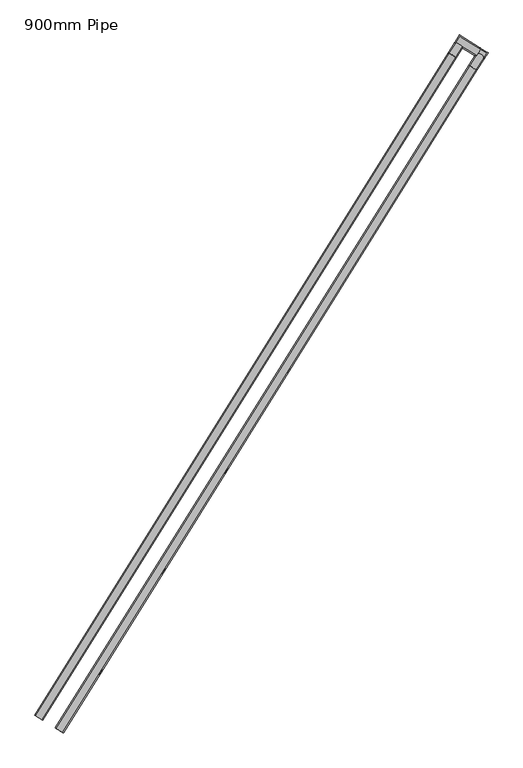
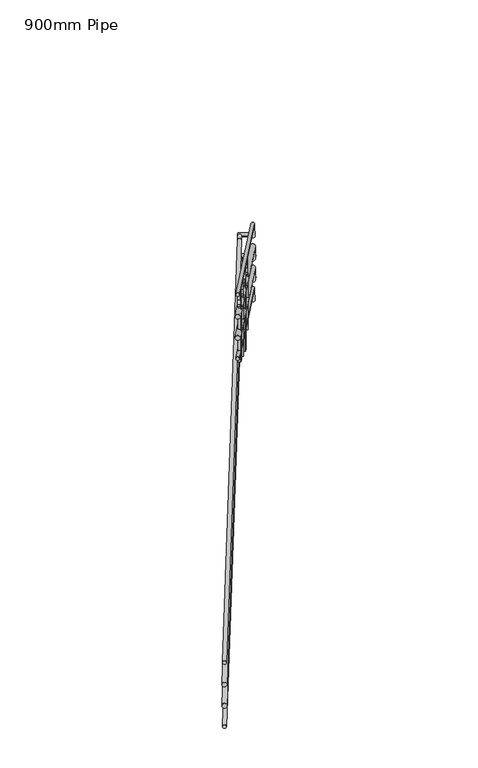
"""IFC4 building model written with IfcOpenShell, lengths in millimetres: railing geometry, 900mm Pipe."""

from ifc_helpers import new_model, si_unit, point, frame, frame_2d, origin, place, context, project, spatial, polyline, circle_curve, ellipse_curve, trimmed, segment, composite_curve, outline, extrude, source, transform, mapped, element, save
from ifc_brep_helpers import plane_surface, cylinder_surface, advanced_brep


def railing_900mm_pipe_284fd88e(model_context):
    return source(origin(), model_context, "Body", "SolidModel", [
        advanced_brep(
        [(45849.2255802, -53294.2540452, -2766.7705098), (45874.6670231, -53310.1516232, -2766.7705098), (47597.9591522, -50495.6953279, -1116.7705098), (47623.400595, -50511.5929058, -1116.7705098)],
        [
            (0, 1, ellipse_curve(frame((45861.9463016, -53302.2028342, -2766.7705098), z_axis=(-0.5299192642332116, -0.8480480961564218, 0.0), x_axis=(0.0, 0.0, -1.0)), 16.7705098, 15.0)),
            (1, 0, ellipse_curve(frame((45861.9463016, -53302.2028342, -2766.7705098), z_axis=(-0.5299192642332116, -0.8480480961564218, 0.0), x_axis=(0.0, 0.0, -1.0)), 16.7705098, 15.0)),
            (2, 3, ellipse_curve(frame((47610.6798736, -50503.6441169, -1116.7705098), z_axis=(0.5299192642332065, 0.848048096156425, 0.0), x_axis=(0.0, 0.0, -1.0)), 16.7705098, 15.0)),
            (3, 2, ellipse_curve(frame((47610.6798736, -50503.6441169, -1116.7705098), z_axis=(0.5299192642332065, 0.848048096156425, 0.0), x_axis=(0.0, 0.0, -1.0)), 16.7705098, 15.0)),
            (0, 2),
            (3, 1),
        ],
        [
            plane_surface(frame((45861.9463016, -53302.2028342, -2750.0), z_axis=(-0.5299192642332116, -0.8480480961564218, 0.0), x_axis=(0.8480480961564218, -0.5299192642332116, 0.0))),
            plane_surface(frame((47610.6798736, -50503.6441169, -1100.0), z_axis=(0.5299192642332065, 0.848048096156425, 0.0), x_axis=(0.848048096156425, -0.5299192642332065, 0.0))),
            cylinder_surface(frame((45865.5011081, -53296.5139546, -2763.4164079), z_axis=(-0.47397419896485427, -0.758517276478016, -0.44721359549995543), x_axis=(0.848048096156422, -0.5299192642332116, 0.0)), 15.0),
        ],
        [
            (0, [[1, 2]]),
            (1, [[3, 4]]),
            (2, [[-1, 5, -4, 6]]),
            (2, [[-2, -6, -3, -5]]),
        ],
    ),
        advanced_brep(
        [(47597.9591522, -50495.6953279, -1115.0), (47623.400595, -50511.5929058, -1115.0), (47625.9354666, -50450.9238659, -1115.0), (47651.3769095, -50466.8214438, -1115.0)],
        [
            (0, 1, circle_curve(frame((47610.6798736, -50503.6441169, -1115.0), z_axis=(-0.5299192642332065, -0.848048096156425, 0.0), x_axis=(0.848048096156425, -0.5299192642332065, 0.0)), 15.0)),
            (1, 0, circle_curve(frame((47610.6798736, -50503.6441169, -1115.0), z_axis=(-0.5299192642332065, -0.848048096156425, 0.0), x_axis=(0.848048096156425, -0.5299192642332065, 0.0)), 15.0)),
            (2, 3, circle_curve(frame((47638.6561881, -50458.8726548, -1115.0), z_axis=(0.5299192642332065, 0.848048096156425, 0.0), x_axis=(0.848048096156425, -0.5299192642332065, 0.0)), 15.0)),
            (3, 2, circle_curve(frame((47638.6561881, -50458.8726548, -1115.0), z_axis=(0.5299192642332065, 0.848048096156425, 0.0), x_axis=(0.848048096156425, -0.5299192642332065, 0.0)), 15.0)),
            (0, 2),
            (3, 1),
        ],
        [
            plane_surface(frame((47610.6798736, -50503.6441169, -1100.0), z_axis=(-0.5299192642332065, -0.848048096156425, 0.0), x_axis=(0.848048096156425, -0.5299192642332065, 0.0))),
            plane_surface(frame((47638.6561881, -50458.8726548, -1100.0), z_axis=(0.529919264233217, 0.8480480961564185, 0.0), x_axis=(0.8480480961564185, -0.529919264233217, 0.0))),
            cylinder_surface(frame((47610.6798736, -50503.6441169, -1115.0), z_axis=(-0.5299192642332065, -0.848048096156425, 0.0), x_axis=(0.848048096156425, -0.5299192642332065, 0.0)), 15.0),
        ],
        [
            (0, [[1, 2]]),
            (1, [[3, 4]]),
            (2, [[-1, 5, -4, 6]]),
            (2, [[-2, -6, -3, -5]]),
        ],
    ),
        advanced_brep(
        [(47641.8330446, -50425.482423, -1115.0), (47625.9354666, -50450.9238659, -1115.0), (47728.6891953, -50479.7561696, -1115.0), (47712.7916173, -50505.1976125, -1115.0)],
        [
            (0, 1, circle_curve(frame((47633.8842556, -50438.2031444, -1115.0), z_axis=(-0.8480480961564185, 0.529919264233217, 0.0), x_axis=(-0.529919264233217, -0.8480480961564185, 0.0)), 15.0)),
            (1, 0, circle_curve(frame((47633.8842556, -50438.2031444, -1115.0), z_axis=(-0.8480480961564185, 0.529919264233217, 0.0), x_axis=(-0.529919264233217, -0.8480480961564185, 0.0)), 15.0)),
            (2, 3, circle_curve(frame((47720.7404063, -50492.476891, -1115.0), z_axis=(0.8480480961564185, -0.529919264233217, 0.0), x_axis=(-0.529919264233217, -0.8480480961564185, 0.0)), 15.0)),
            (3, 2, circle_curve(frame((47720.7404063, -50492.476891, -1115.0), z_axis=(0.8480480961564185, -0.529919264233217, 0.0), x_axis=(-0.529919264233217, -0.8480480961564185, 0.0)), 15.0)),
            (0, 2),
            (3, 1),
        ],
        [
            plane_surface(frame((47633.8842556, -50438.2031444, -1100.0), z_axis=(-0.848048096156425, 0.5299192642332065, 0.0), x_axis=(0.5299192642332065, 0.848048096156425, 0.0))),
            plane_surface(frame((47720.7404063, -50492.476891, -1100.0), z_axis=(0.8480480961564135, -0.5299192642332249, 0.0), x_axis=(0.5299192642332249, 0.8480480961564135, 0.0))),
            cylinder_surface(frame((47633.8842556, -50438.2031444, -1115.0), z_axis=(-0.8480480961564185, 0.529919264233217, 0.0), x_axis=(-0.529919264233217, -0.8480480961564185, 0.0)), 15.0),
        ],
        [
            (0, [[1, 2]]),
            (1, [[3, 4]]),
            (2, [[-1, 5, -4, 6]]),
            (2, [[-2, -6, -3, -5]]),
        ],
    ),
        advanced_brep(
        [(47754.1306382, -50495.6537475, -1115.0), (47728.6891953, -50479.7561696, -1115.0), (47741.0514371, -50516.5848446, -1115.0), (47715.6099942, -50500.6872667, -1115.0), (47710.2567458, -50565.8666524, -986.4212833), (47684.8153029, -50549.9690745, -986.4212833)],
        [
            (0, 1, circle_curve(frame((47741.4099167, -50487.7049585, -1115.0), z_axis=(0.5299192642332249, 0.8480480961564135, 0.0), x_axis=(-0.8480480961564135, 0.5299192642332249, 0.0)), 15.0)),
            (1, 0, circle_curve(frame((47741.4099167, -50487.7049585, -1115.0), z_axis=(0.5299192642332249, 0.8480480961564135, 0.0), x_axis=(-0.8480480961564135, 0.5299192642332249, 0.0)), 15.0)),
            (0, 2),
            (2, 3, ellipse_curve(frame((47728.3307156, -50508.6360557, -1115.0), z_axis=(0.44523422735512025, 0.7125237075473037, -0.5422881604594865), x_axis=(0.28736894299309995, 0.45988644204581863, 0.8401925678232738)), 17.8530501, 15.0)),
            (3, 1),
            (3, 2, ellipse_curve(frame((47728.3307156, -50508.6360557, -1115.0), z_axis=(0.44523422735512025, 0.7125237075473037, -0.5422881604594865), x_axis=(0.28736894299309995, 0.45988644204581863, 0.8401925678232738)), 17.8530501, 15.0)),
            (4, 5, ellipse_curve(frame((47697.5360243, -50557.9178635, -986.4212833), z_axis=(-0.5299192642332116, -0.8480480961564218, 0.0), x_axis=(0.0, 0.0, -1.0)), 36.4212833, 15.0)),
            (5, 4, ellipse_curve(frame((47697.5360243, -50557.9178635, -986.4212833), z_axis=(-0.5299192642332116, -0.8480480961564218, 0.0), x_axis=(0.0, 0.0, -1.0)), 36.4212833, 15.0)),
            (2, 4),
            (5, 3),
        ],
        [
            plane_surface(frame((47741.4099167, -50487.7049585, -1100.0), z_axis=(0.529919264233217, 0.8480480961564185, 0.0), x_axis=(0.8480480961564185, -0.529919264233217, 0.0))),
            cylinder_surface(frame((47741.4099167, -50487.7049585, -1115.0), z_axis=(0.5299192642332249, 0.8480480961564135, 0.0), x_axis=(-0.8480480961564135, 0.5299192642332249, 0.0)), 15.0),
            plane_surface(frame((47697.5360243, -50557.9178635, -950.0), z_axis=(-0.5299192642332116, -0.8480480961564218, 0.0), x_axis=(0.8480480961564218, -0.5299192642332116, 0.0))),
            cylinder_surface(frame((47726.2177702, -50512.0174751, -1106.1777065), z_axis=(0.21824571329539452, 0.34926615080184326, -0.9112529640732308), x_axis=(-0.848048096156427, 0.5299192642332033, 0.0)), 15.0),
        ],
        [
            (0, [[1, 2]]),
            (1, [[-1, 3, 4, 5]]),
            (1, [[-2, -5, 6, -3]]),
            (2, [[7, 8]]),
            (3, [[-4, 9, -8, 10]]),
            (3, [[-6, -10, -7, -9]]),
        ],
    ),
        advanced_brep(
        [(47710.2567458, -50565.8666524, -966.7705098), (47684.8153029, -50549.9690745, -966.7705098), (45961.5231738, -53364.4253698, 683.2294902), (45936.0817309, -53348.5277918, 683.2294902)],
        [
            (0, 1, ellipse_curve(frame((47697.5360243, -50557.9178635, -966.7705098), z_axis=(0.5299192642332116, 0.8480480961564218, 0.0), x_axis=(0.0, 0.0, -1.0)), 16.7705098, 15.0)),
            (1, 0, ellipse_curve(frame((47697.5360243, -50557.9178635, -966.7705098), z_axis=(0.5299192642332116, 0.8480480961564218, 0.0), x_axis=(0.0, 0.0, -1.0)), 16.7705098, 15.0)),
            (2, 3, ellipse_curve(frame((45948.8024523, -53356.4765808, 683.2294902), z_axis=(-0.5299192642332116, -0.8480480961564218, 0.0), x_axis=(0.0, 0.0, -1.0)), 16.7705098, 15.0)),
            (3, 2, ellipse_curve(frame((45948.8024523, -53356.4765808, 683.2294902), z_axis=(-0.5299192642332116, -0.8480480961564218, 0.0), x_axis=(0.0, 0.0, -1.0)), 16.7705098, 15.0)),
            (0, 2),
            (3, 1),
        ],
        [
            plane_surface(frame((47697.5360243, -50557.9178635, -950.0), z_axis=(0.5299192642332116, 0.8480480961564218, 0.0), x_axis=(0.8480480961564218, -0.5299192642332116, 0.0))),
            plane_surface(frame((45948.8024523, -53356.4765808, 700.0), z_axis=(-0.5299192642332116, -0.8480480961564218, 0.0), x_axis=(0.8480480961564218, -0.5299192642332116, 0.0))),
            cylinder_surface(frame((47693.9812178, -50563.6067431, -963.4164079), z_axis=(0.47397419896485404, 0.7585172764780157, -0.44721359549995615), x_axis=(-0.8480480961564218, 0.5299192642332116, 0.0)), 15.0),
        ],
        [
            (0, [[1, 2]]),
            (1, [[3, 4]]),
            (2, [[-1, 5, -4, 6]]),
            (2, [[-2, -6, -3, -5]]),
        ],
    ),
        advanced_brep(
        [(45844.9853397, -53291.6044489, -2972.3606798), (45878.9072636, -53312.8012195, -2972.3606798), (47593.7189117, -50493.0457316, -1322.3606798), (47627.6408355, -50514.2425022, -1322.3606798)],
        [
            (0, 1, ellipse_curve(frame((45861.9463016, -53302.2028342, -2972.3606798), z_axis=(-0.5299192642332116, -0.8480480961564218, 0.0), x_axis=(0.0, 0.0, -1.0)), 22.3606798, 20.0)),
            (1, 0, ellipse_curve(frame((45861.9463016, -53302.2028342, -2972.3606798), z_axis=(-0.5299192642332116, -0.8480480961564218, 0.0), x_axis=(0.0, 0.0, -1.0)), 22.3606798, 20.0)),
            (2, 3, ellipse_curve(frame((47610.6798736, -50503.6441169, -1322.3606798), z_axis=(0.5299192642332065, 0.848048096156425, 0.0), x_axis=(0.0, 0.0, -1.0)), 22.3606798, 20.0)),
            (3, 2, ellipse_curve(frame((47610.6798736, -50503.6441169, -1322.3606798), z_axis=(0.5299192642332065, 0.848048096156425, 0.0), x_axis=(0.0, 0.0, -1.0)), 22.3606798, 20.0)),
            (0, 2),
            (3, 1),
        ],
        [
            plane_surface(frame((45861.9463016, -53302.2028342, -2950.0), z_axis=(-0.5299192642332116, -0.8480480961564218, 0.0), x_axis=(0.8480480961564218, -0.5299192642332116, 0.0))),
            plane_surface(frame((47610.6798736, -50503.6441169, -1300.0), z_axis=(0.5299192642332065, 0.848048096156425, 0.0), x_axis=(0.848048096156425, -0.5299192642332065, 0.0))),
            cylinder_surface(frame((45866.6860436, -53294.6176614, -2967.8885438), z_axis=(-0.47397419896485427, -0.758517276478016, -0.44721359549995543), x_axis=(0.848048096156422, -0.5299192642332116, 0.0)), 20.0),
        ],
        [
            (0, [[1, 2]]),
            (1, [[3, 4]]),
            (2, [[-1, 5, -4, 6]]),
            (2, [[-2, -6, -3, -5]]),
        ],
    ),
        advanced_brep(
        [(47593.7189117, -50493.0457316, -1320.0), (47627.6408355, -50514.2425022, -1320.0), (47619.0456298, -50452.51451, -1320.0), (47652.9675537, -50473.7112806, -1320.0)],
        [
            (0, 1, circle_curve(frame((47610.6798736, -50503.6441169, -1320.0), z_axis=(-0.5299192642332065, -0.848048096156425, 0.0), x_axis=(0.848048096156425, -0.5299192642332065, 0.0)), 20.0)),
            (1, 0, circle_curve(frame((47610.6798736, -50503.6441169, -1320.0), z_axis=(-0.5299192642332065, -0.848048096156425, 0.0), x_axis=(0.848048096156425, -0.5299192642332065, 0.0)), 20.0)),
            (2, 3, circle_curve(frame((47636.0065918, -50463.1128953, -1320.0), z_axis=(0.5299192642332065, 0.848048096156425, 0.0), x_axis=(0.848048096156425, -0.5299192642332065, 0.0)), 20.0)),
            (3, 2, circle_curve(frame((47636.0065918, -50463.1128953, -1320.0), z_axis=(0.5299192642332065, 0.848048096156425, 0.0), x_axis=(0.848048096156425, -0.5299192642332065, 0.0)), 20.0)),
            (0, 2),
            (3, 1),
        ],
        [
            plane_surface(frame((47610.6798736, -50503.6441169, -1300.0), z_axis=(-0.5299192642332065, -0.848048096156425, 0.0), x_axis=(0.848048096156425, -0.5299192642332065, 0.0))),
            plane_surface(frame((47636.0065918, -50463.1128953, -1300.0), z_axis=(0.529919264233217, 0.8480480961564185, 0.0), x_axis=(0.8480480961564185, -0.529919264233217, 0.0))),
            cylinder_surface(frame((47610.6798736, -50503.6441169, -1320.0), z_axis=(-0.5299192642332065, -0.848048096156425, 0.0), x_axis=(0.848048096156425, -0.5299192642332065, 0.0)), 20.0),
        ],
        [
            (0, [[1, 2]]),
            (1, [[3, 4]]),
            (2, [[-1, 5, -4, 6]]),
            (2, [[-2, -6, -3, -5]]),
        ],
    ),
        advanced_brep(
        [(47640.2424004, -50418.5925862, -1320.0), (47619.0456298, -50452.51451, -1320.0), (47727.0985511, -50472.8663328, -1320.0), (47705.9017805, -50506.7882566, -1320.0)],
        [
            (0, 1, circle_curve(frame((47629.6440151, -50435.5535481, -1320.0), z_axis=(-0.8480480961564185, 0.529919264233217, 0.0), x_axis=(-0.529919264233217, -0.8480480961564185, 0.0)), 20.0)),
            (1, 0, circle_curve(frame((47629.6440151, -50435.5535481, -1320.0), z_axis=(-0.8480480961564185, 0.529919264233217, 0.0), x_axis=(-0.529919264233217, -0.8480480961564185, 0.0)), 20.0)),
            (2, 3, circle_curve(frame((47716.5001658, -50489.8272947, -1320.0), z_axis=(0.8480480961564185, -0.529919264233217, 0.0), x_axis=(-0.529919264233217, -0.8480480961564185, 0.0)), 20.0)),
            (3, 2, circle_curve(frame((47716.5001658, -50489.8272947, -1320.0), z_axis=(0.8480480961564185, -0.529919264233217, 0.0), x_axis=(-0.529919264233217, -0.8480480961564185, 0.0)), 20.0)),
            (0, 2),
            (3, 1),
        ],
        [
            plane_surface(frame((47629.6440151, -50435.5535481, -1300.0), z_axis=(-0.848048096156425, 0.5299192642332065, 0.0), x_axis=(0.5299192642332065, 0.848048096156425, 0.0))),
            plane_surface(frame((47716.5001658, -50489.8272947, -1300.0), z_axis=(0.8480480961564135, -0.5299192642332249, 0.0), x_axis=(0.5299192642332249, 0.8480480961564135, 0.0))),
            cylinder_surface(frame((47629.6440151, -50435.5535481, -1320.0), z_axis=(-0.8480480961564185, 0.529919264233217, 0.0), x_axis=(-0.529919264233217, -0.8480480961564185, 0.0)), 20.0),
        ],
        [
            (0, [[1, 2]]),
            (1, [[3, 4]]),
            (2, [[-1, 5, -4, 6]]),
            (2, [[-2, -6, -3, -5]]),
        ],
    ),
        advanced_brep(
        [(47761.020475, -50494.0631033, -1320.0), (47727.0985511, -50472.8663328, -1320.0), (47743.5815402, -50521.9712329, -1320.0), (47709.6596163, -50500.7744623, -1320.0), (47714.4969862, -50568.5162488, -1198.5617111), (47680.5750624, -50547.3194782, -1198.5617111)],
        [
            (0, 1, circle_curve(frame((47744.059513, -50483.4647181, -1320.0), z_axis=(0.5299192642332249, 0.8480480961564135, 0.0), x_axis=(-0.8480480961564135, 0.5299192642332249, 0.0)), 20.0)),
            (1, 0, circle_curve(frame((47744.059513, -50483.4647181, -1320.0), z_axis=(0.5299192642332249, 0.8480480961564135, 0.0), x_axis=(-0.8480480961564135, 0.5299192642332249, 0.0)), 20.0)),
            (0, 2),
            (2, 3, ellipse_curve(frame((47726.6205782, -50511.3728476, -1320.0), z_axis=(0.44523422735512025, 0.7125237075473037, -0.5422881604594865), x_axis=(0.28736894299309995, 0.45988644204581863, 0.8401925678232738)), 23.8040668, 20.0)),
            (3, 1),
            (3, 2, ellipse_curve(frame((47726.6205782, -50511.3728476, -1320.0), z_axis=(0.44523422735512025, 0.7125237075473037, -0.5422881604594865), x_axis=(0.28736894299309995, 0.45988644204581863, 0.8401925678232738)), 23.8040668, 20.0)),
            (4, 5, ellipse_curve(frame((47697.5360243, -50557.9178635, -1198.5617111), z_axis=(-0.5299192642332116, -0.8480480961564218, 0.0), x_axis=(0.0, 0.0, -1.0)), 48.5617111, 20.0)),
            (5, 4, ellipse_curve(frame((47697.5360243, -50557.9178635, -1198.5617111), z_axis=(-0.5299192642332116, -0.8480480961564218, 0.0), x_axis=(0.0, 0.0, -1.0)), 48.5617111, 20.0)),
            (2, 4),
            (5, 3),
        ],
        [
            plane_surface(frame((47744.059513, -50483.4647181, -1300.0), z_axis=(0.529919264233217, 0.8480480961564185, 0.0), x_axis=(0.8480480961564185, -0.529919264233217, 0.0))),
            cylinder_surface(frame((47744.059513, -50483.4647181, -1320.0), z_axis=(0.5299192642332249, 0.8480480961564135, 0.0), x_axis=(-0.8480480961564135, 0.5299192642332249, 0.0)), 20.0),
            plane_surface(frame((47697.5360243, -50557.9178635, -1150.0), z_axis=(-0.5299192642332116, -0.8480480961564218, 0.0), x_axis=(0.8480480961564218, -0.5299192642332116, 0.0))),
            cylinder_surface(frame((47723.8033177, -50515.8814068, -1308.236942), z_axis=(0.21824571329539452, 0.34926615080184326, -0.9112529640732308), x_axis=(-0.848048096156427, 0.5299192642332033, 0.0)), 20.0),
        ],
        [
            (0, [[1, 2]]),
            (1, [[-1, 3, 4, 5]]),
            (1, [[-2, -5, 6, -3]]),
            (2, [[7, 8]]),
            (3, [[-4, 9, -8, 10]]),
            (3, [[-6, -10, -7, -9]]),
        ],
    ),
        advanced_brep(
        [(47714.4969862, -50568.5162488, -1172.3606798), (47680.5750624, -50547.3194782, -1172.3606798), (45965.7634143, -53367.0749661, 477.6393202), (45931.8414904, -53345.8781955, 477.6393202)],
        [
            (0, 1, ellipse_curve(frame((47697.5360243, -50557.9178635, -1172.3606798), z_axis=(0.5299192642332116, 0.8480480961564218, 0.0), x_axis=(0.0, 0.0, -1.0)), 22.3606798, 20.0)),
            (1, 0, ellipse_curve(frame((47697.5360243, -50557.9178635, -1172.3606798), z_axis=(0.5299192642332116, 0.8480480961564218, 0.0), x_axis=(0.0, 0.0, -1.0)), 22.3606798, 20.0)),
            (2, 3, ellipse_curve(frame((45948.8024523, -53356.4765808, 477.6393202), z_axis=(-0.5299192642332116, -0.8480480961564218, 0.0), x_axis=(0.0, 0.0, -1.0)), 22.3606798, 20.0)),
            (3, 2, ellipse_curve(frame((45948.8024523, -53356.4765808, 477.6393202), z_axis=(-0.5299192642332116, -0.8480480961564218, 0.0), x_axis=(0.0, 0.0, -1.0)), 22.3606798, 20.0)),
            (0, 2),
            (3, 1),
        ],
        [
            plane_surface(frame((47697.5360243, -50557.9178635, -1150.0), z_axis=(0.5299192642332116, 0.8480480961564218, 0.0), x_axis=(0.8480480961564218, -0.5299192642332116, 0.0))),
            plane_surface(frame((45948.8024523, -53356.4765808, 500.0), z_axis=(-0.5299192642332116, -0.8480480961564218, 0.0), x_axis=(0.8480480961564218, -0.5299192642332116, 0.0))),
            cylinder_surface(frame((47692.7962823, -50565.5030362, -1167.8885438), z_axis=(0.47397419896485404, 0.7585172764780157, -0.44721359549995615), x_axis=(-0.8480480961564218, 0.5299192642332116, 0.0)), 20.0),
        ],
        [
            (0, [[1, 2]]),
            (1, [[3, 4]]),
            (2, [[-1, 5, -4, 6]]),
            (2, [[-2, -6, -3, -5]]),
        ],
    ),
        advanced_brep(
        [(45844.9853397, -53291.6044489, -3172.3606798), (45878.9072636, -53312.8012195, -3172.3606798), (47593.7189117, -50493.0457316, -1522.3606798), (47627.6408355, -50514.2425022, -1522.3606798)],
        [
            (0, 1, ellipse_curve(frame((45861.9463016, -53302.2028342, -3172.3606798), z_axis=(-0.5299192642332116, -0.8480480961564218, 0.0), x_axis=(0.0, 0.0, -1.0)), 22.3606798, 20.0)),
            (1, 0, ellipse_curve(frame((45861.9463016, -53302.2028342, -3172.3606798), z_axis=(-0.5299192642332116, -0.8480480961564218, 0.0), x_axis=(0.0, 0.0, -1.0)), 22.3606798, 20.0)),
            (2, 3, ellipse_curve(frame((47610.6798736, -50503.6441169, -1522.3606798), z_axis=(0.5299192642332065, 0.848048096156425, 0.0), x_axis=(0.0, 0.0, -1.0)), 22.3606798, 20.0)),
            (3, 2, ellipse_curve(frame((47610.6798736, -50503.6441169, -1522.3606798), z_axis=(0.5299192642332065, 0.848048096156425, 0.0), x_axis=(0.0, 0.0, -1.0)), 22.3606798, 20.0)),
            (0, 2),
            (3, 1),
        ],
        [
            plane_surface(frame((45861.9463016, -53302.2028342, -3150.0), z_axis=(-0.5299192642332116, -0.8480480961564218, 0.0), x_axis=(0.8480480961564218, -0.5299192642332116, 0.0))),
            plane_surface(frame((47610.6798736, -50503.6441169, -1500.0), z_axis=(0.5299192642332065, 0.848048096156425, 0.0), x_axis=(0.848048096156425, -0.5299192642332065, 0.0))),
            cylinder_surface(frame((45866.6860436, -53294.6176614, -3167.8885438), z_axis=(-0.47397419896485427, -0.758517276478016, -0.44721359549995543), x_axis=(0.848048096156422, -0.5299192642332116, 0.0)), 20.0),
        ],
        [
            (0, [[1, 2]]),
            (1, [[3, 4]]),
            (2, [[-1, 5, -4, 6]]),
            (2, [[-2, -6, -3, -5]]),
        ],
    ),
        advanced_brep(
        [(47593.7189117, -50493.0457316, -1520.0), (47627.6408355, -50514.2425022, -1520.0), (47619.0456298, -50452.51451, -1520.0), (47652.9675537, -50473.7112806, -1520.0)],
        [
            (0, 1, circle_curve(frame((47610.6798736, -50503.6441169, -1520.0), z_axis=(-0.5299192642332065, -0.848048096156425, 0.0), x_axis=(0.848048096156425, -0.5299192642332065, 0.0)), 20.0)),
            (1, 0, circle_curve(frame((47610.6798736, -50503.6441169, -1520.0), z_axis=(-0.5299192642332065, -0.848048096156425, 0.0), x_axis=(0.848048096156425, -0.5299192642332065, 0.0)), 20.0)),
            (2, 3, circle_curve(frame((47636.0065918, -50463.1128953, -1520.0), z_axis=(0.5299192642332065, 0.848048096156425, 0.0), x_axis=(0.848048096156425, -0.5299192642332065, 0.0)), 20.0)),
            (3, 2, circle_curve(frame((47636.0065918, -50463.1128953, -1520.0), z_axis=(0.5299192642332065, 0.848048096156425, 0.0), x_axis=(0.848048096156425, -0.5299192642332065, 0.0)), 20.0)),
            (0, 2),
            (3, 1),
        ],
        [
            plane_surface(frame((47610.6798736, -50503.6441169, -1500.0), z_axis=(-0.5299192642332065, -0.848048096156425, 0.0), x_axis=(0.848048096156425, -0.5299192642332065, 0.0))),
            plane_surface(frame((47636.0065918, -50463.1128953, -1500.0), z_axis=(0.529919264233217, 0.8480480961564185, 0.0), x_axis=(0.8480480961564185, -0.529919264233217, 0.0))),
            cylinder_surface(frame((47610.6798736, -50503.6441169, -1520.0), z_axis=(-0.5299192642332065, -0.848048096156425, 0.0), x_axis=(0.848048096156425, -0.5299192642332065, 0.0)), 20.0),
        ],
        [
            (0, [[1, 2]]),
            (1, [[3, 4]]),
            (2, [[-1, 5, -4, 6]]),
            (2, [[-2, -6, -3, -5]]),
        ],
    ),
        advanced_brep(
        [(47640.2424004, -50418.5925862, -1520.0), (47619.0456298, -50452.51451, -1520.0), (47727.0985511, -50472.8663328, -1520.0), (47705.9017805, -50506.7882566, -1520.0)],
        [
            (0, 1, circle_curve(frame((47629.6440151, -50435.5535481, -1520.0), z_axis=(-0.8480480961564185, 0.529919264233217, 0.0), x_axis=(-0.529919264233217, -0.8480480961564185, 0.0)), 20.0)),
            (1, 0, circle_curve(frame((47629.6440151, -50435.5535481, -1520.0), z_axis=(-0.8480480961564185, 0.529919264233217, 0.0), x_axis=(-0.529919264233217, -0.8480480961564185, 0.0)), 20.0)),
            (2, 3, circle_curve(frame((47716.5001658, -50489.8272947, -1520.0), z_axis=(0.8480480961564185, -0.529919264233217, 0.0), x_axis=(-0.529919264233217, -0.8480480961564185, 0.0)), 20.0)),
            (3, 2, circle_curve(frame((47716.5001658, -50489.8272947, -1520.0), z_axis=(0.8480480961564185, -0.529919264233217, 0.0), x_axis=(-0.529919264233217, -0.8480480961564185, 0.0)), 20.0)),
            (0, 2),
            (3, 1),
        ],
        [
            plane_surface(frame((47629.6440151, -50435.5535481, -1500.0), z_axis=(-0.848048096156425, 0.5299192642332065, 0.0), x_axis=(0.5299192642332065, 0.848048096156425, 0.0))),
            plane_surface(frame((47716.5001658, -50489.8272947, -1500.0), z_axis=(0.8480480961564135, -0.5299192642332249, 0.0), x_axis=(0.5299192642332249, 0.8480480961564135, 0.0))),
            cylinder_surface(frame((47629.6440151, -50435.5535481, -1520.0), z_axis=(-0.8480480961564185, 0.529919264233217, 0.0), x_axis=(-0.529919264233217, -0.8480480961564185, 0.0)), 20.0),
        ],
        [
            (0, [[1, 2]]),
            (1, [[3, 4]]),
            (2, [[-1, 5, -4, 6]]),
            (2, [[-2, -6, -3, -5]]),
        ],
    ),
        advanced_brep(
        [(47761.020475, -50494.0631033, -1520.0), (47727.0985511, -50472.8663328, -1520.0), (47743.5815402, -50521.9712329, -1520.0), (47709.6596163, -50500.7744623, -1520.0), (47714.4969862, -50568.5162488, -1398.5617111), (47680.5750624, -50547.3194782, -1398.5617111)],
        [
            (0, 1, circle_curve(frame((47744.059513, -50483.4647181, -1520.0), z_axis=(0.5299192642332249, 0.8480480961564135, 0.0), x_axis=(-0.8480480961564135, 0.5299192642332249, 0.0)), 20.0)),
            (1, 0, circle_curve(frame((47744.059513, -50483.4647181, -1520.0), z_axis=(0.5299192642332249, 0.8480480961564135, 0.0), x_axis=(-0.8480480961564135, 0.5299192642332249, 0.0)), 20.0)),
            (0, 2),
            (2, 3, ellipse_curve(frame((47726.6205782, -50511.3728476, -1520.0), z_axis=(0.44523422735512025, 0.7125237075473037, -0.5422881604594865), x_axis=(0.28736894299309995, 0.45988644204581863, 0.8401925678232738)), 23.8040668, 20.0)),
            (3, 1),
            (3, 2, ellipse_curve(frame((47726.6205782, -50511.3728476, -1520.0), z_axis=(0.44523422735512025, 0.7125237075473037, -0.5422881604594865), x_axis=(0.28736894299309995, 0.45988644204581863, 0.8401925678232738)), 23.8040668, 20.0)),
            (4, 5, ellipse_curve(frame((47697.5360243, -50557.9178635, -1398.5617111), z_axis=(-0.5299192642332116, -0.8480480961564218, 0.0), x_axis=(0.0, 0.0, -1.0)), 48.5617111, 20.0)),
            (5, 4, ellipse_curve(frame((47697.5360243, -50557.9178635, -1398.5617111), z_axis=(-0.5299192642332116, -0.8480480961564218, 0.0), x_axis=(0.0, 0.0, -1.0)), 48.5617111, 20.0)),
            (2, 4),
            (5, 3),
        ],
        [
            plane_surface(frame((47744.059513, -50483.4647181, -1500.0), z_axis=(0.529919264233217, 0.8480480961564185, 0.0), x_axis=(0.8480480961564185, -0.529919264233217, 0.0))),
            cylinder_surface(frame((47744.059513, -50483.4647181, -1520.0), z_axis=(0.5299192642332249, 0.8480480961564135, 0.0), x_axis=(-0.8480480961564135, 0.5299192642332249, 0.0)), 20.0),
            plane_surface(frame((47697.5360243, -50557.9178635, -1350.0), z_axis=(-0.5299192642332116, -0.8480480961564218, 0.0), x_axis=(0.8480480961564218, -0.5299192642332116, 0.0))),
            cylinder_surface(frame((47723.8033177, -50515.8814068, -1508.236942), z_axis=(0.21824571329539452, 0.34926615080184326, -0.9112529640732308), x_axis=(-0.848048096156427, 0.5299192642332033, 0.0)), 20.0),
        ],
        [
            (0, [[1, 2]]),
            (1, [[-1, 3, 4, 5]]),
            (1, [[-2, -5, 6, -3]]),
            (2, [[7, 8]]),
            (3, [[-4, 9, -8, 10]]),
            (3, [[-6, -10, -7, -9]]),
        ],
    ),
        advanced_brep(
        [(47714.4969862, -50568.5162488, -1372.3606798), (47680.5750624, -50547.3194782, -1372.3606798), (45965.7634143, -53367.0749661, 277.6393202), (45931.8414904, -53345.8781955, 277.6393202)],
        [
            (0, 1, ellipse_curve(frame((47697.5360243, -50557.9178635, -1372.3606798), z_axis=(0.5299192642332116, 0.8480480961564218, 0.0), x_axis=(0.0, 0.0, -1.0)), 22.3606798, 20.0)),
            (1, 0, ellipse_curve(frame((47697.5360243, -50557.9178635, -1372.3606798), z_axis=(0.5299192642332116, 0.8480480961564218, 0.0), x_axis=(0.0, 0.0, -1.0)), 22.3606798, 20.0)),
            (2, 3, ellipse_curve(frame((45948.8024523, -53356.4765808, 277.6393202), z_axis=(-0.5299192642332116, -0.8480480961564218, 0.0), x_axis=(0.0, 0.0, -1.0)), 22.3606798, 20.0)),
            (3, 2, ellipse_curve(frame((45948.8024523, -53356.4765808, 277.6393202), z_axis=(-0.5299192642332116, -0.8480480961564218, 0.0), x_axis=(0.0, 0.0, -1.0)), 22.3606798, 20.0)),
            (0, 2),
            (3, 1),
        ],
        [
            plane_surface(frame((47697.5360243, -50557.9178635, -1350.0), z_axis=(0.5299192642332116, 0.8480480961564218, 0.0), x_axis=(0.8480480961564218, -0.5299192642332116, 0.0))),
            plane_surface(frame((45948.8024523, -53356.4765808, 300.0), z_axis=(-0.5299192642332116, -0.8480480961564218, 0.0), x_axis=(0.8480480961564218, -0.5299192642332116, 0.0))),
            cylinder_surface(frame((47692.7962823, -50565.5030362, -1367.8885438), z_axis=(0.47397419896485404, 0.7585172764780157, -0.44721359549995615), x_axis=(-0.8480480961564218, 0.5299192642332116, 0.0)), 20.0),
        ],
        [
            (0, [[1, 2]]),
            (1, [[3, 4]]),
            (2, [[-1, 5, -4, 6]]),
            (2, [[-2, -6, -3, -5]]),
        ],
    ),
        advanced_brep(
        [(45849.2255802, -53294.2540452, -3366.7705098), (45874.6670231, -53310.1516232, -3366.7705098), (47597.9591522, -50495.6953279, -1716.7705098), (47623.400595, -50511.5929058, -1716.7705098)],
        [
            (0, 1, ellipse_curve(frame((45861.9463016, -53302.2028342, -3366.7705098), z_axis=(-0.5299192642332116, -0.8480480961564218, 0.0), x_axis=(0.0, 0.0, -1.0)), 16.7705098, 15.0)),
            (1, 0, ellipse_curve(frame((45861.9463016, -53302.2028342, -3366.7705098), z_axis=(-0.5299192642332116, -0.8480480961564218, 0.0), x_axis=(0.0, 0.0, -1.0)), 16.7705098, 15.0)),
            (2, 3, ellipse_curve(frame((47610.6798736, -50503.6441169, -1716.7705098), z_axis=(0.5299192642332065, 0.848048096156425, 0.0), x_axis=(0.0, 0.0, -1.0)), 16.7705098, 15.0)),
            (3, 2, ellipse_curve(frame((47610.6798736, -50503.6441169, -1716.7705098), z_axis=(0.5299192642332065, 0.848048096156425, 0.0), x_axis=(0.0, 0.0, -1.0)), 16.7705098, 15.0)),
            (0, 2),
            (3, 1),
        ],
        [
            plane_surface(frame((45861.9463016, -53302.2028342, -3350.0), z_axis=(-0.5299192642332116, -0.8480480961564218, 0.0), x_axis=(0.8480480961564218, -0.5299192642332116, 0.0))),
            plane_surface(frame((47610.6798736, -50503.6441169, -1700.0), z_axis=(0.5299192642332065, 0.848048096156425, 0.0), x_axis=(0.848048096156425, -0.5299192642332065, 0.0))),
            cylinder_surface(frame((45865.5011081, -53296.5139546, -3363.4164079), z_axis=(-0.47397419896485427, -0.758517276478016, -0.44721359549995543), x_axis=(0.848048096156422, -0.5299192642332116, 0.0)), 15.0),
        ],
        [
            (0, [[1, 2]]),
            (1, [[3, 4]]),
            (2, [[-1, 5, -4, 6]]),
            (2, [[-2, -6, -3, -5]]),
        ],
    ),
        advanced_brep(
        [(47597.9591522, -50495.6953279, -1715.0), (47623.400595, -50511.5929058, -1715.0), (47625.9354666, -50450.9238659, -1715.0), (47651.3769095, -50466.8214438, -1715.0)],
        [
            (0, 1, circle_curve(frame((47610.6798736, -50503.6441169, -1715.0), z_axis=(-0.5299192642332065, -0.848048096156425, 0.0), x_axis=(0.848048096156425, -0.5299192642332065, 0.0)), 15.0)),
            (1, 0, circle_curve(frame((47610.6798736, -50503.6441169, -1715.0), z_axis=(-0.5299192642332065, -0.848048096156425, 0.0), x_axis=(0.848048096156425, -0.5299192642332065, 0.0)), 15.0)),
            (2, 3, circle_curve(frame((47638.6561881, -50458.8726548, -1715.0), z_axis=(0.5299192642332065, 0.848048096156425, 0.0), x_axis=(0.848048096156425, -0.5299192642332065, 0.0)), 15.0)),
            (3, 2, circle_curve(frame((47638.6561881, -50458.8726548, -1715.0), z_axis=(0.5299192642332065, 0.848048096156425, 0.0), x_axis=(0.848048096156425, -0.5299192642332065, 0.0)), 15.0)),
            (0, 2),
            (3, 1),
        ],
        [
            plane_surface(frame((47610.6798736, -50503.6441169, -1700.0), z_axis=(-0.5299192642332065, -0.848048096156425, 0.0), x_axis=(0.848048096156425, -0.5299192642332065, 0.0))),
            plane_surface(frame((47638.6561881, -50458.8726548, -1700.0), z_axis=(0.529919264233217, 0.8480480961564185, 0.0), x_axis=(0.8480480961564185, -0.529919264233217, 0.0))),
            cylinder_surface(frame((47610.6798736, -50503.6441169, -1715.0), z_axis=(-0.5299192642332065, -0.848048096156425, 0.0), x_axis=(0.848048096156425, -0.5299192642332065, 0.0)), 15.0),
        ],
        [
            (0, [[1, 2]]),
            (1, [[3, 4]]),
            (2, [[-1, 5, -4, 6]]),
            (2, [[-2, -6, -3, -5]]),
        ],
    ),
        advanced_brep(
        [(47641.8330446, -50425.482423, -1715.0), (47625.9354666, -50450.9238659, -1715.0), (47728.6891953, -50479.7561696, -1715.0), (47712.7916173, -50505.1976125, -1715.0)],
        [
            (0, 1, circle_curve(frame((47633.8842556, -50438.2031444, -1715.0), z_axis=(-0.8480480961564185, 0.529919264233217, 0.0), x_axis=(-0.529919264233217, -0.8480480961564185, 0.0)), 15.0)),
            (1, 0, circle_curve(frame((47633.8842556, -50438.2031444, -1715.0), z_axis=(-0.8480480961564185, 0.529919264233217, 0.0), x_axis=(-0.529919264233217, -0.8480480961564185, 0.0)), 15.0)),
            (2, 3, circle_curve(frame((47720.7404063, -50492.476891, -1715.0), z_axis=(0.8480480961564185, -0.529919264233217, 0.0), x_axis=(-0.529919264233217, -0.8480480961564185, 0.0)), 15.0)),
            (3, 2, circle_curve(frame((47720.7404063, -50492.476891, -1715.0), z_axis=(0.8480480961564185, -0.529919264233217, 0.0), x_axis=(-0.529919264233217, -0.8480480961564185, 0.0)), 15.0)),
            (0, 2),
            (3, 1),
        ],
        [
            plane_surface(frame((47633.8842556, -50438.2031444, -1700.0), z_axis=(-0.848048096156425, 0.5299192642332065, 0.0), x_axis=(0.5299192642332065, 0.848048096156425, 0.0))),
            plane_surface(frame((47720.7404063, -50492.476891, -1700.0), z_axis=(0.8480480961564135, -0.5299192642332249, 0.0), x_axis=(0.5299192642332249, 0.8480480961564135, 0.0))),
            cylinder_surface(frame((47633.8842556, -50438.2031444, -1715.0), z_axis=(-0.8480480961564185, 0.529919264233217, 0.0), x_axis=(-0.529919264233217, -0.8480480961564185, 0.0)), 15.0),
        ],
        [
            (0, [[1, 2]]),
            (1, [[3, 4]]),
            (2, [[-1, 5, -4, 6]]),
            (2, [[-2, -6, -3, -5]]),
        ],
    ),
        advanced_brep(
        [(47754.1306382, -50495.6537475, -1715.0), (47728.6891953, -50479.7561696, -1715.0), (47741.0514371, -50516.5848446, -1715.0), (47715.6099942, -50500.6872667, -1715.0), (47710.2567458, -50565.8666524, -1586.4212833), (47684.8153029, -50549.9690745, -1586.4212833)],
        [
            (0, 1, circle_curve(frame((47741.4099167, -50487.7049585, -1715.0), z_axis=(0.5299192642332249, 0.8480480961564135, 0.0), x_axis=(-0.8480480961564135, 0.5299192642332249, 0.0)), 15.0)),
            (1, 0, circle_curve(frame((47741.4099167, -50487.7049585, -1715.0), z_axis=(0.5299192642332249, 0.8480480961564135, 0.0), x_axis=(-0.8480480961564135, 0.5299192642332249, 0.0)), 15.0)),
            (0, 2),
            (2, 3, ellipse_curve(frame((47728.3307156, -50508.6360557, -1715.0), z_axis=(0.44523422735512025, 0.7125237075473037, -0.5422881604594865), x_axis=(0.28736894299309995, 0.45988644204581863, 0.8401925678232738)), 17.8530501, 15.0)),
            (3, 1),
            (3, 2, ellipse_curve(frame((47728.3307156, -50508.6360557, -1715.0), z_axis=(0.44523422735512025, 0.7125237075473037, -0.5422881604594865), x_axis=(0.28736894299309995, 0.45988644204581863, 0.8401925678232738)), 17.8530501, 15.0)),
            (4, 5, ellipse_curve(frame((47697.5360243, -50557.9178635, -1586.4212833), z_axis=(-0.5299192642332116, -0.8480480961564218, 0.0), x_axis=(0.0, 0.0, -1.0)), 36.4212833, 15.0)),
            (5, 4, ellipse_curve(frame((47697.5360243, -50557.9178635, -1586.4212833), z_axis=(-0.5299192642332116, -0.8480480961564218, 0.0), x_axis=(0.0, 0.0, -1.0)), 36.4212833, 15.0)),
            (2, 4),
            (5, 3),
        ],
        [
            plane_surface(frame((47741.4099167, -50487.7049585, -1700.0), z_axis=(0.529919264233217, 0.8480480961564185, 0.0), x_axis=(0.8480480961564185, -0.529919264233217, 0.0))),
            cylinder_surface(frame((47741.4099167, -50487.7049585, -1715.0), z_axis=(0.5299192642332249, 0.8480480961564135, 0.0), x_axis=(-0.8480480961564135, 0.5299192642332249, 0.0)), 15.0),
            plane_surface(frame((47697.5360243, -50557.9178635, -1550.0), z_axis=(-0.5299192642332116, -0.8480480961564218, 0.0), x_axis=(0.8480480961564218, -0.5299192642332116, 0.0))),
            cylinder_surface(frame((47726.2177702, -50512.0174751, -1706.1777065), z_axis=(0.21824571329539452, 0.34926615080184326, -0.9112529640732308), x_axis=(-0.848048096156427, 0.5299192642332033, 0.0)), 15.0),
        ],
        [
            (0, [[1, 2]]),
            (1, [[-1, 3, 4, 5]]),
            (1, [[-2, -5, 6, -3]]),
            (2, [[7, 8]]),
            (3, [[-4, 9, -8, 10]]),
            (3, [[-6, -10, -7, -9]]),
        ],
    ),
        advanced_brep(
        [(47710.2567458, -50565.8666524, -1566.7705098), (47684.8153029, -50549.9690745, -1566.7705098), (45961.5231738, -53364.4253698, 83.2294902), (45936.0817309, -53348.5277918, 83.2294902)],
        [
            (0, 1, ellipse_curve(frame((47697.5360243, -50557.9178635, -1566.7705098), z_axis=(0.5299192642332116, 0.8480480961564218, 0.0), x_axis=(0.0, 0.0, -1.0)), 16.7705098, 15.0)),
            (1, 0, ellipse_curve(frame((47697.5360243, -50557.9178635, -1566.7705098), z_axis=(0.5299192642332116, 0.8480480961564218, 0.0), x_axis=(0.0, 0.0, -1.0)), 16.7705098, 15.0)),
            (2, 3, ellipse_curve(frame((45948.8024523, -53356.4765808, 83.2294902), z_axis=(-0.5299192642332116, -0.8480480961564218, 0.0), x_axis=(0.0, 0.0, -1.0)), 16.7705098, 15.0)),
            (3, 2, ellipse_curve(frame((45948.8024523, -53356.4765808, 83.2294902), z_axis=(-0.5299192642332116, -0.8480480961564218, 0.0), x_axis=(0.0, 0.0, -1.0)), 16.7705098, 15.0)),
            (0, 2),
            (3, 1),
        ],
        [
            plane_surface(frame((47697.5360243, -50557.9178635, -1550.0), z_axis=(0.5299192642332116, 0.8480480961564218, 0.0), x_axis=(0.8480480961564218, -0.5299192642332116, 0.0))),
            plane_surface(frame((45948.8024523, -53356.4765808, 100.0), z_axis=(-0.5299192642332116, -0.8480480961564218, 0.0), x_axis=(0.8480480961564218, -0.5299192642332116, 0.0))),
            cylinder_surface(frame((47693.9812178, -50563.6067431, -1563.4164079), z_axis=(0.47397419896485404, 0.7585172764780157, -0.44721359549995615), x_axis=(-0.8480480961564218, 0.5299192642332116, 0.0)), 15.0),
        ],
        [
            (0, [[1, 2]]),
            (1, [[3, 4]]),
            (2, [[-1, 5, -4, 6]]),
            (2, [[-2, -6, -3, -5]]),
        ],
    ),
        extrude(outline(composite_curve([segment(trimmed(circle_curve(frame_2d((0.0, -31.75)), 31.75), [point((0.0, -63.5))], [point((0.0, 0.0))], False, "CARTESIAN"), True, "CONTINUOUS"), segment(trimmed(circle_curve(frame_2d((0.0, -31.75)), 31.75), [point((0.0, 0.0))], [point((0.0, -63.5))], False, "CARTESIAN"), True, "CONTINUOUS")], self_intersect=False), holes=[composite_curve([segment(trimmed(circle_curve(frame_2d((0.0, -31.75)), 12.7), [point((0.0, -44.4499999))], [point((0.0, -19.05))], True, "CARTESIAN"), True, "CONTINUOUS"), segment(trimmed(circle_curve(frame_2d((0.0, -31.75)), 12.7), [point((0.0, -19.05))], [point((0.0, -44.4499999))], True, "CARTESIAN"), True, "CONTINUOUS")], self_intersect=False)]), frame((46135.3733791, -53081.8665996, 399.35), z_axis=(-0.8480480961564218, 0.5299192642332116, 0.0), x_axis=(0.0, 0.0, 1.0)), (0.0, 0.0, 1.0), 25.4),
        extrude(outline(polyline([(46108.1130418, -53083.5519074), (46129.6534635, -53097.0118567), (46116.1935141, -53118.5522784), (46094.6530925, -53105.0923291), (46108.1130418, -53083.5519074)])), frame((0.0, 0.0, -150.0), z_axis=(0.0, 0.0, 1.0), x_axis=(1.0, 0.0, 0.0)), (0.0, 0.0, 1.0), 517.6),
        extrude(outline(polyline([(317.5, 0.0), (317.5, -25.4), (234.95, -25.4), (222.25, 0.0), (317.5, 0.0)])), frame((46111.8184678, -53119.5623374, 748.6), z_axis=(-0.8480480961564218, 0.5299192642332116, 0.0), x_axis=(0.0, 0.0, -1.0)), (0.0, 0.0, 1.0), 25.4),
        extrude(outline(composite_curve([segment(trimmed(circle_curve(frame_2d((0.0, -31.75)), 31.75), [point((0.0, -63.5))], [point((0.0, 0.0))], False, "CARTESIAN"), True, "CONTINUOUS"), segment(trimmed(circle_curve(frame_2d((0.0, -31.75)), 31.75), [point((0.0, 0.0))], [point((0.0, -63.5))], False, "CARTESIAN"), True, "CONTINUOUS")], self_intersect=False), holes=[composite_curve([segment(trimmed(circle_curve(frame_2d((0.0, -31.75)), 12.7), [point((0.0, -44.4499999))], [point((0.0, -19.05))], True, "CARTESIAN"), True, "CONTINUOUS"), segment(trimmed(circle_curve(frame_2d((0.0, -31.75)), 12.7), [point((0.0, -19.05))], [point((0.0, -44.4499999))], True, "CARTESIAN"), True, "CONTINUOUS")], self_intersect=False)]), frame((46400.3330112, -52657.8425515, 149.35), z_axis=(-0.8480480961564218, 0.5299192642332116, 0.0), x_axis=(0.0, 0.0, 1.0)), (0.0, 0.0, 1.0), 25.4),
        extrude(outline(polyline([(46373.0726739, -52659.5278594), (46394.6130956, -52672.9878087), (46381.1531463, -52694.5282303), (46359.6127246, -52681.068281), (46373.0726739, -52659.5278594)])), frame((0.0, 0.0, -450.0), z_axis=(0.0, 0.0, 1.0), x_axis=(1.0, 0.0, 0.0)), (0.0, 0.0, 1.0), 567.6),
        extrude(outline(polyline([(317.5, 0.0), (317.5, -25.4), (234.95, -25.4), (222.25, 0.0), (317.5, 0.0)])), frame((46376.7780999, -52695.5382893, 498.6), z_axis=(-0.8480480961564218, 0.5299192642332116, 0.0), x_axis=(0.0, 0.0, -1.0)), (0.0, 0.0, 1.0), 25.4),
        extrude(outline(composite_curve([segment(trimmed(circle_curve(frame_2d((0.0, -31.7499999)), 31.75), [point((0.0, -63.5))], [point((0.0, 0.0))], False, "CARTESIAN"), True, "CONTINUOUS"), segment(trimmed(circle_curve(frame_2d((0.0, -31.7499999)), 31.75), [point((0.0, 0.0))], [point((0.0, -63.5))], False, "CARTESIAN"), True, "CONTINUOUS")], self_intersect=False), holes=[composite_curve([segment(trimmed(circle_curve(frame_2d((0.0, -31.7499999)), 12.7), [point((0.0, -44.45))], [point((0.0, -19.05))], True, "CARTESIAN"), True, "CONTINUOUS"), segment(trimmed(circle_curve(frame_2d((0.0, -31.7499999)), 12.7), [point((0.0, -19.05))], [point((0.0, -44.45))], True, "CARTESIAN"), True, "CONTINUOUS")], self_intersect=False)]), frame((46665.2926433, -52233.8185034, -100.65), z_axis=(-0.8480480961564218, 0.5299192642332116, 0.0), x_axis=(0.0, 0.0, 1.0)), (0.0, 0.0, 1.0), 25.4),
        extrude(outline(polyline([(46638.032306, -52235.5038113), (46659.5727277, -52248.9637606), (46646.1127784, -52270.5041822), (46624.5723567, -52257.0442329), (46638.032306, -52235.5038113)])), frame((0.0, 0.0, -750.0), z_axis=(0.0, 0.0, 1.0), x_axis=(1.0, 0.0, 0.0)), (0.0, 0.0, 1.0), 617.6),
        extrude(outline(polyline([(317.5, 0.0), (317.5, -25.4), (234.95, -25.4), (222.25, 0.0), (317.5, 0.0)])), frame((46641.737732, -52271.5142413, 248.6), z_axis=(-0.8480480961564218, 0.5299192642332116, 0.0), x_axis=(0.0, 0.0, -1.0)), (0.0, 0.0, 1.0), 25.4),
        extrude(outline(composite_curve([segment(trimmed(circle_curve(frame_2d((0.0, -31.75)), 31.75), [point((0.0, -63.5))], [point((0.0, 0.0))], False, "CARTESIAN"), True, "CONTINUOUS"), segment(trimmed(circle_curve(frame_2d((0.0, -31.75)), 31.75), [point((0.0, 0.0))], [point((0.0, -63.5))], False, "CARTESIAN"), True, "CONTINUOUS")], self_intersect=False), holes=[composite_curve([segment(trimmed(circle_curve(frame_2d((0.0, -31.75)), 12.7), [point((0.0, -44.45))], [point((0.0, -19.05))], True, "CARTESIAN"), True, "CONTINUOUS"), segment(trimmed(circle_curve(frame_2d((0.0, -31.75)), 12.7), [point((0.0, -19.05))], [point((0.0, -44.45))], True, "CARTESIAN"), True, "CONTINUOUS")], self_intersect=False)]), frame((46930.2522754, -51809.7944553, -350.65), z_axis=(-0.8480480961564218, 0.5299192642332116, 0.0), x_axis=(0.0, 0.0, 1.0)), (0.0, 0.0, 1.0), 25.4),
        extrude(outline(polyline([(46902.9919382, -51811.4797632), (46924.5323598, -51824.9397125), (46911.0724105, -51846.4801341), (46889.5319889, -51833.0201848), (46902.9919382, -51811.4797632)])), frame((0.0, 0.0, -900.0), z_axis=(0.0, 0.0, 1.0), x_axis=(1.0, 0.0, 0.0)), (0.0, 0.0, 1.0), 517.6),
        extrude(outline(polyline([(317.5, 0.0), (317.5, -25.4), (234.95, -25.4), (222.25, 0.0), (317.5, 0.0)])), frame((46906.6973641, -51847.4901932, -1.4), z_axis=(-0.8480480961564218, 0.5299192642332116, 0.0), x_axis=(0.0, 0.0, -1.0)), (0.0, 0.0, 1.0), 25.4),
    ])


if __name__ == "__main__":
    model = new_model("IFC4")
    model_context = context("Model", 3, world=origin())
    ifc_project = project(units=[si_unit("LENGTHUNIT", "METRE", prefix="MILLI")], contexts=[model_context])
    site = spatial("IfcSite", under=ifc_project)
    building = spatial("IfcBuilding", under=site)
    placement = place(None, origin())
    railing_900mm_pipe_shape = railing_900mm_pipe_284fd88e(model_context)
    element("IfcRailing", 1, ObjectType="900mm Pipe", at=placement, inside=building, context=model_context, shape_type="MappedRepresentation", body=[
        mapped(railing_900mm_pipe_shape, transform((0.0, 0.0, 0.0), x_axis=(1.0, 0.0, 0.0), y_axis=(0.0, 1.0, 0.0), z_axis=(0.0, 0.0, 1.0))),
    ])
    save(model, "model.ifc")
